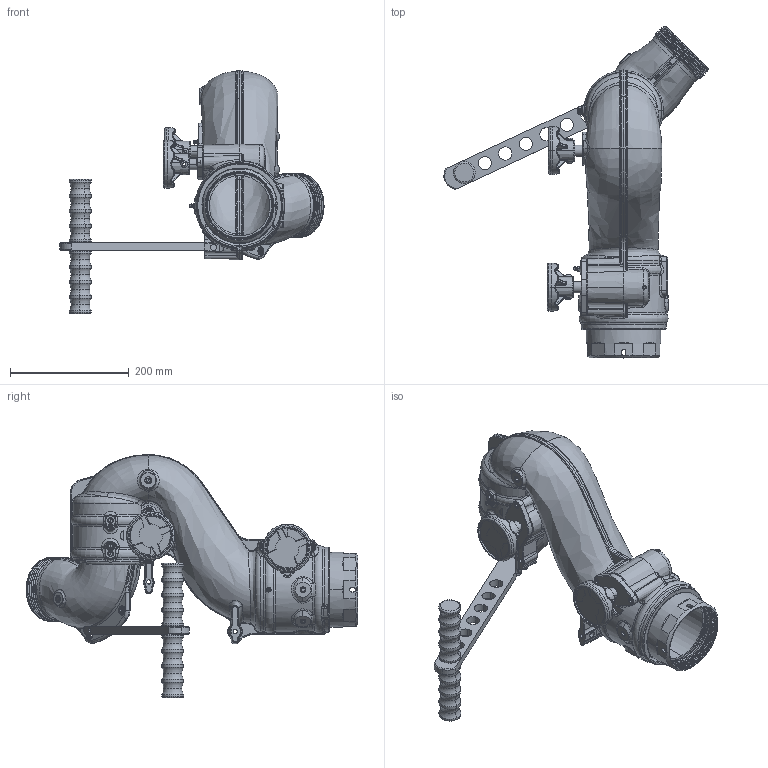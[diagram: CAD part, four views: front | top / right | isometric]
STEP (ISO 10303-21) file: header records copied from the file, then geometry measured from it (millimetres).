
FILE_DESCRIPTION (( 'STEP AP203' ), '1' );
FILE_NAME ('Y5-TP1A.STEP', '2017-06-13T20:06:23', ( '' ), ( '' ), 'SwSTEP 2.0', 'SolidWorks 2016', '' );
FILE_SCHEMA (( 'CONFIG_CONTROL_DESIGN' ));
Products named in the file (1): Y5-TP1A
Bounding box: 444.31 x 558.08 x 408.69 mm (x, y, z)
Surface area: 636566.8 mm2 (no closed solid volume)
Topology: 0 solids, 49 shells, 1856 faces, 5367 edges, 3401 vertices
Faces by surface type: bspline 528, plane 366, cylinder 334, torus 290, cone 287, sphere 51
Entity records: 151009 total; most frequent: CARTESIAN_POINT 107799, ORIENTED_EDGE 9237, DIRECTION 8097, EDGE_CURVE 5345, VERTEX_POINT 3394, AXIS2_PLACEMENT_3D 3383, CIRCLE 2054, EDGE_LOOP 1965
